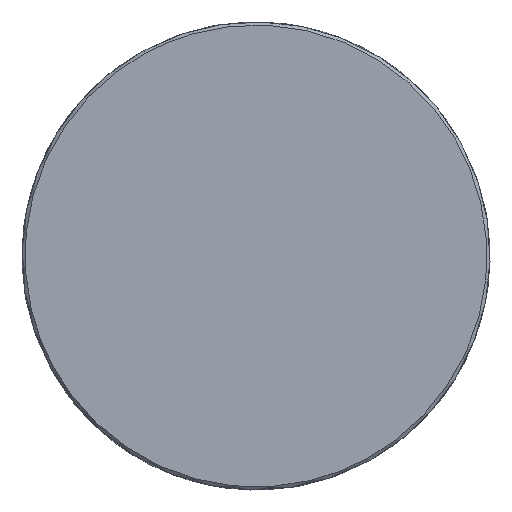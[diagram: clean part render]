
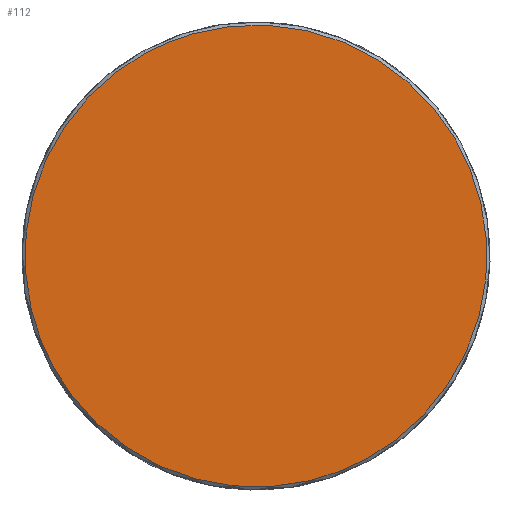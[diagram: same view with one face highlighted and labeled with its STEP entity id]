
A CAD part, left-side view. The second image highlights one B-rep face of the part: STEP entity #112.
In plain terms, the highlighted free-form (B-spline) face has degree [1, 1] with [2, 2] control points.
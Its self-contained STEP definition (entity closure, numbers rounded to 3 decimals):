
#112=ADVANCED_FACE('',(#220),#221,.T.);
#220=FACE_OUTER_BOUND('',#739,.T.);
#221=B_SPLINE_SURFACE_WITH_KNOTS('',1,1,((#740,#741),(#742,#743)),.UNSPECIFIED.,.F.,.F.,.F.,(2,2),(2,2),(0.0,75.1),(0.0,75.1),.UNSPECIFIED.);
#739=EDGE_LOOP('',(#998,#999,#1000));
#740=CARTESIAN_POINT('',(-44.114,-37.55,-37.55));
#741=CARTESIAN_POINT('',(-44.114,37.55,-37.55));
#742=CARTESIAN_POINT('',(-44.114,-37.55,37.55));
#743=CARTESIAN_POINT('',(-44.114,37.55,37.55));
#998=ORIENTED_EDGE('',*,*,#1111,.T.);
#999=ORIENTED_EDGE('',*,*,#1087,.T.);
#1000=ORIENTED_EDGE('',*,*,#1112,.T.);
#1087=EDGE_CURVE('',#1245,#1242,#1246,.T.);
#1111=EDGE_CURVE('',#1276,#1245,#1277,.T.);
#1112=EDGE_CURVE('',#1242,#1276,#1278,.T.);
#1242=VERTEX_POINT('',#1680);
#1245=VERTEX_POINT('',#1684);
#1246=(B_SPLINE_CURVE(2,(#1686,#1687,#1688,#1689,#1690),.UNSPECIFIED.,.F.,.F.)B_SPLINE_CURVE_WITH_KNOTS((3,2,3),(-1.571,0.,1.571),.UNSPECIFIED.)RATIONAL_B_SPLINE_CURVE((1.0,0.707,1.0,0.707,1.0))BOUNDED_CURVE()REPRESENTATION_ITEM('')GEOMETRIC_REPRESENTATION_ITEM()CURVE());
#1276=VERTEX_POINT('',#1817);
#1277=(B_SPLINE_CURVE(2,(#1819,#1820,#1821),.UNSPECIFIED.,.F.,.F.)B_SPLINE_CURVE_WITH_KNOTS((3,3),(-3.142,-1.571),.UNSPECIFIED.)RATIONAL_B_SPLINE_CURVE((1.0,0.707,1.0))BOUNDED_CURVE()REPRESENTATION_ITEM('')GEOMETRIC_REPRESENTATION_ITEM()CURVE());
#1278=(B_SPLINE_CURVE(2,(#1829,#1830,#1831),.UNSPECIFIED.,.F.,.F.)B_SPLINE_CURVE_WITH_KNOTS((3,3),(1.571,3.142),.UNSPECIFIED.)RATIONAL_B_SPLINE_CURVE((1.0,0.707,1.0))BOUNDED_CURVE()REPRESENTATION_ITEM('')GEOMETRIC_REPRESENTATION_ITEM()CURVE());
#1680=CARTESIAN_POINT('',(-44.114,17.971,32.97));
#1684=CARTESIAN_POINT('',(-44.114,-17.971,-32.97));
#1686=CARTESIAN_POINT('',(-44.114,-17.971,-32.97));
#1687=CARTESIAN_POINT('',(-44.114,-50.942,-14.999));
#1688=CARTESIAN_POINT('',(-44.114,-32.97,17.971));
#1689=CARTESIAN_POINT('',(-44.114,-14.999,50.942));
#1690=CARTESIAN_POINT('',(-44.114,17.971,32.97));
#1817=CARTESIAN_POINT('',(-44.114,32.97,-17.971));
#1819=CARTESIAN_POINT('',(-44.114,32.97,-17.971));
#1820=CARTESIAN_POINT('',(-44.114,14.999,-50.942));
#1821=CARTESIAN_POINT('',(-44.114,-17.971,-32.97));
#1829=CARTESIAN_POINT('',(-44.114,17.971,32.97));
#1830=CARTESIAN_POINT('',(-44.114,50.942,14.999));
#1831=CARTESIAN_POINT('',(-44.114,32.97,-17.971));
